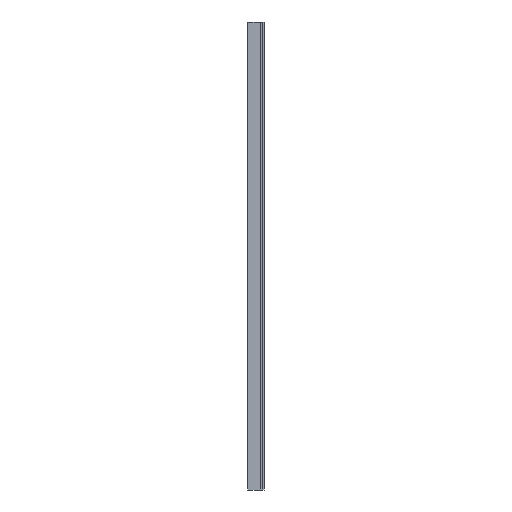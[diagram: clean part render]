
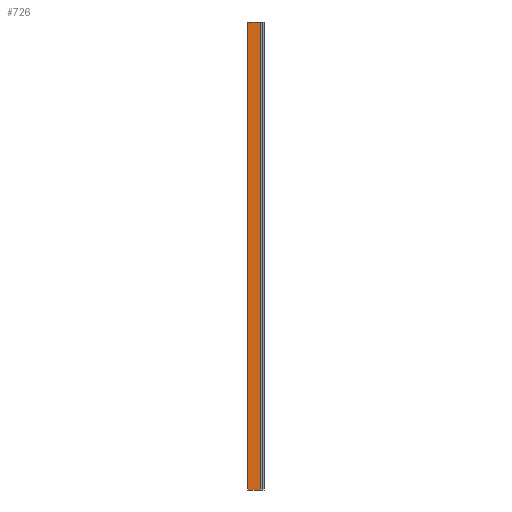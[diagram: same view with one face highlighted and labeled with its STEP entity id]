
A CAD part, left-side view. The second image highlights one B-rep face of the part: STEP entity #726.
In plain terms, the highlighted planar face has unit normal (-1, 0, 0).
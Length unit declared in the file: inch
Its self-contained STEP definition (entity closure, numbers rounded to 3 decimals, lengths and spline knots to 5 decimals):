
#16 = VERTEX_POINT ( 'NONE', #208 ) ;
#25 = EDGE_LOOP ( 'NONE', ( #513, #429, #238, #695 ) ) ;
#32 = DIRECTION ( 'NONE',  ( 0., 0., -1. ) ) ;
#85 = VERTEX_POINT ( 'NONE', #323 ) ;
#96 = CARTESIAN_POINT ( 'NONE',  ( 0., 0.03937, 0. ) ) ;
#156 = VECTOR ( 'NONE', #32, 39.37008 ) ;
#164 = VECTOR ( 'NONE', #417, 39.37008 ) ;
#179 = EDGE_CURVE ( 'NONE', #479, #85, #341, .T. ) ;
#205 = PLANE ( 'NONE',  #702 ) ;
#207 = VECTOR ( 'NONE', #574, 39.37008 ) ;
#208 = CARTESIAN_POINT ( 'NONE',  ( 0., 0.03937, 0. ) ) ;
#219 = EDGE_CURVE ( 'NONE', #85, #16, #689, .T. ) ;
#236 = FACE_OUTER_BOUND ( 'NONE', #25, .T. ) ;
#238 = ORIENTED_EDGE ( 'NONE', *, *, #660, .F. ) ;
#251 = DIRECTION ( 'NONE',  ( 1., 0., 0. ) ) ;
#293 = LINE ( 'NONE', #546, #690 ) ;
#313 = DIRECTION ( 'NONE',  ( 0., 0., -1. ) ) ;
#323 = CARTESIAN_POINT ( 'NONE',  ( 0., 3.25, 0. ) ) ;
#341 = LINE ( 'NONE', #392, #156 ) ;
#392 = CARTESIAN_POINT ( 'NONE',  ( 0., 3.25, 120. ) ) ;
#417 = DIRECTION ( 'NONE',  ( 0., -1., 0. ) ) ;
#429 = ORIENTED_EDGE ( 'NONE', *, *, #564, .F. ) ;
#435 = CARTESIAN_POINT ( 'NONE',  ( 0., 0.03937, 120. ) ) ;
#474 = CARTESIAN_POINT ( 'NONE',  ( 0., 0.03937, 120. ) ) ;
#479 = VERTEX_POINT ( 'NONE', #491 ) ;
#491 = CARTESIAN_POINT ( 'NONE',  ( 0., 3.25, 120. ) ) ;
#513 = ORIENTED_EDGE ( 'NONE', *, *, #219, .T. ) ;
#546 = CARTESIAN_POINT ( 'NONE',  ( 0., 0.03937, 120. ) ) ;
#563 = CARTESIAN_POINT ( 'NONE',  ( 0., 0.03937, 120. ) ) ;
#564 = EDGE_CURVE ( 'NONE', #588, #16, #293, .T. ) ;
#574 = DIRECTION ( 'NONE',  ( 0., -1., 0. ) ) ;
#588 = VERTEX_POINT ( 'NONE', #563 ) ;
#595 = LINE ( 'NONE', #435, #207 ) ;
#645 = DIRECTION ( 'NONE',  ( 0., 0., -1. ) ) ;
#660 = EDGE_CURVE ( 'NONE', #479, #588, #595, .T. ) ;
#689 = LINE ( 'NONE', #96, #164 ) ;
#690 = VECTOR ( 'NONE', #313, 39.37008 ) ;
#695 = ORIENTED_EDGE ( 'NONE', *, *, #179, .T. ) ;
#702 = AXIS2_PLACEMENT_3D ( 'NONE', #474, #251, #645 ) ;
#726 = ADVANCED_FACE ( 'NONE', ( #236 ), #205, .F. ) ;
